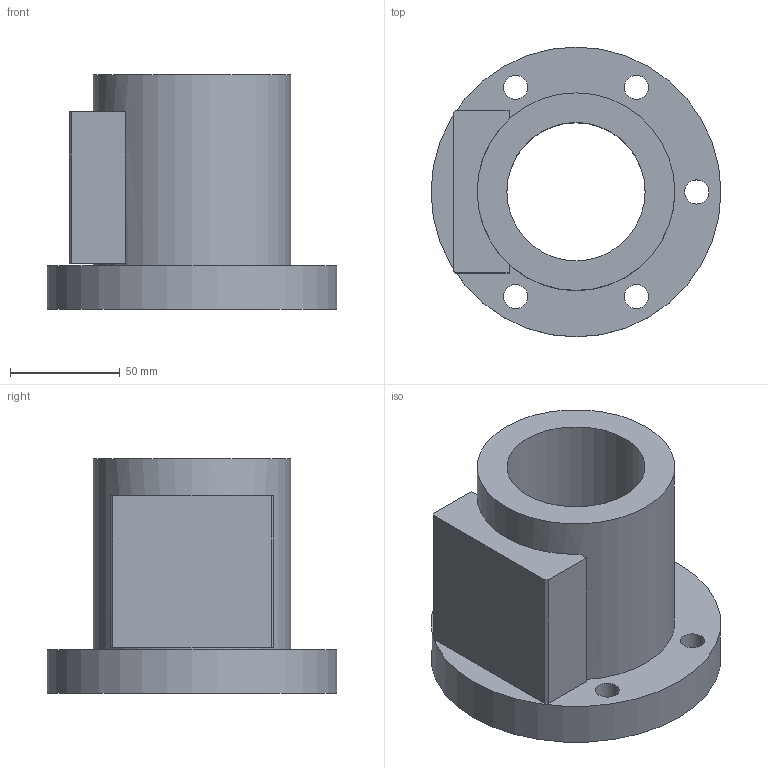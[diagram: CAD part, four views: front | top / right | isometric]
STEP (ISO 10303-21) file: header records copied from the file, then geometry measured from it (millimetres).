
FILE_DESCRIPTION(/* description */ (''),/* implementation_level */ '2;1');
FILE_NAME(/* name */ '63-10B2',/* time_stamp */ '2006-07-31T11:58:35+08:00',/* author */ (''),/* organization */ (''),/* preprocessor_version */ 'ST-DEVELOPER v9',/* originating_system */ 'UGS - NX 4.0',/* authorisation */ '');
FILE_SCHEMA (('CONFIG_CONTROL_DESIGN'));
Length unit declared in the file: millimetre
Products named in the file (1): 63-10B2
Bounding box: 132 x 132 x 107 mm (x, y, z)
Volume: 560459.2 mm3; surface area: 85232.6 mm2
Topology: 1 solids, 1 shells, 30 faces, 67 edges, 46 vertices
Faces by surface type: plane 17, cylinder 13
Full cylindrical faces by diameter (mm): 11 x5, 17.5 x5, 63 x1, 90 x1, 132 x1
Entity records: 860 total; most frequent: DIRECTION 140, CARTESIAN_POINT 123, ORIENTED_EDGE 100, EDGE_LOOP 62, AXIS2_PLACEMENT_3D 59, EDGE_CURVE 50, FACE_BOUND 45, VERTEX_POINT 42
